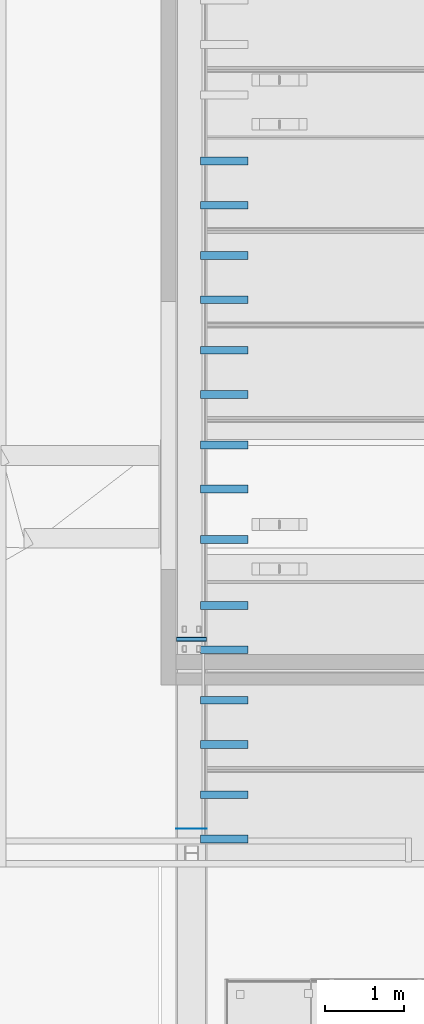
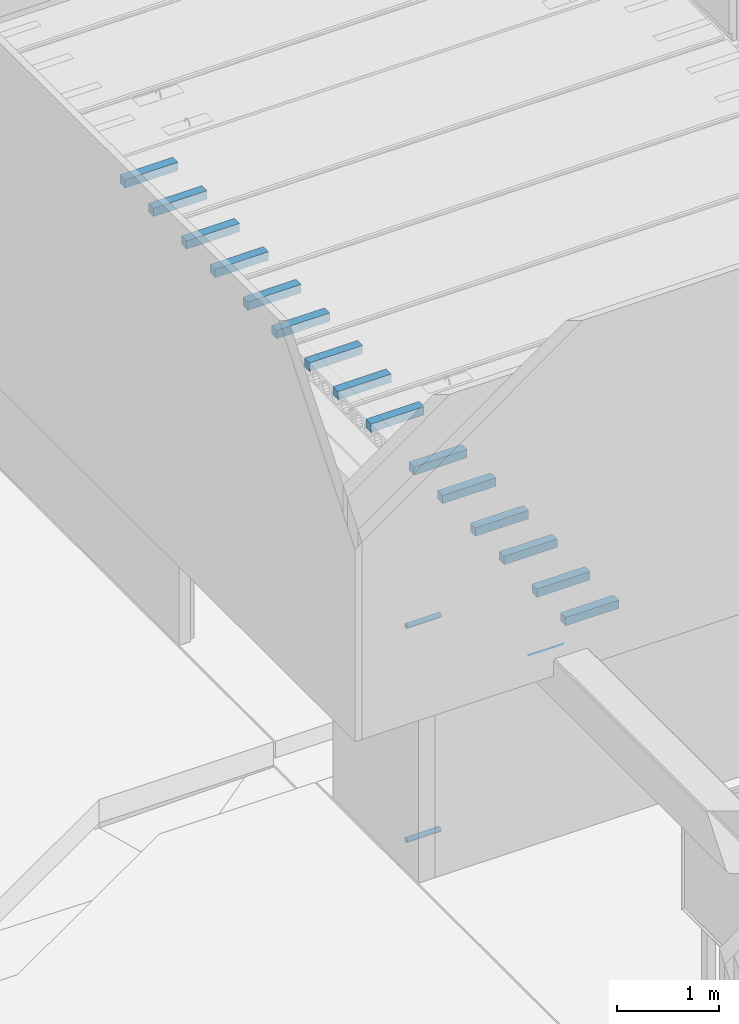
# One storey, part 14 of 230: 19 beams.
"""IFC4X3_ADD2 building model written with IfcOpenShell, lengths in millimetres."""

import ifcopenshell
import ifcopenshell.guid

model = None  # the IFC model being written
_history = None  # IfcOwnerHistory: only IFC2X3 demands one
_inside = {}  # id of a spatial element -> (the spatial element, [elements in it])
_under = {}  # id of a project, library or spatial element -> (it, [spatial elements below it])
_declared = {}  # id of a project -> (the project, [libraries it declares])
_typed = {}  # id of a type object -> (the type object, [elements of that type])
_made_of = {}  # id of a material, layer set ... -> (it, [elements and type objects made of it])


def new_model(schema):
    """Start an empty IFC model of exactly this schema.

    Asked for "IFC4X3", IfcOpenShell would pick the latest addendum, in which some entities
    have other attributes; the version numbers below select the first issue.
    IFC2X3 requires an IfcOwnerHistory on every rooted entity: one is made here for all.
    """
    global model, _history
    if schema == "IFC4X3":
        model = ifcopenshell.file(schema_version=(4, 3, 0, 0))
    else:
        model = ifcopenshell.file(schema=schema)
    _inside.clear()
    _under.clear()
    _declared.clear()
    _typed.clear()
    _made_of.clear()
    _history = None
    if model.schema == "IFC2X3":
        org = make("IfcOrganization", Name="unknown")
        user = make(
            "IfcPersonAndOrganization",
            ThePerson=make("IfcPerson", FamilyName="unknown"),
            TheOrganization=org,
        )
        app = make(
            "IfcApplication",
            ApplicationDeveloper=org,
            Version="unknown",
            ApplicationFullName="unknown",
            ApplicationIdentifier="unknown",
        )
        _history = make(
            "IfcOwnerHistory",
            OwningUser=user,
            OwningApplication=app,
            ChangeAction="ADDED",
            CreationDate=0,
        )
    return model


def make(cls, **values):
    """One entity of the class cls with the attributes given. An attribute that is None is left unset."""
    return model.create_entity(
        cls, **{name: value for name, value in values.items() if value is not None}
    )


def rooted(cls, **values):
    """An entity with a GlobalId (a new one), such as an element, a storey or a relation."""
    return make(cls, GlobalId=ifcopenshell.guid.new(), OwnerHistory=_history, **values)


def si_unit(unit_type, name, prefix=None):
    """IfcSIUnit, for example si_unit("LENGTHUNIT", "METRE", prefix="MILLI")."""
    return make("IfcSIUnit", UnitType=unit_type, Prefix=prefix, Name=name)


def assignment(units):
    """IfcUnitAssignment: the units of a project."""
    return None if units is None else make("IfcUnitAssignment", Units=units)


def point(xyz):
    """IfcCartesianPoint."""
    return None if xyz is None else make("IfcCartesianPoint", Coordinates=xyz)


def direction(xyz):
    """IfcDirection."""
    return None if xyz is None else make("IfcDirection", DirectionRatios=xyz)


def frame(location, z_axis=None, x_axis=None):
    """IfcAxis2Placement3D, a coordinate frame: its origin and axes. An axis left out is left unset."""
    return make(
        "IfcAxis2Placement3D",
        Location=point(location),
        Axis=direction(z_axis),
        RefDirection=direction(x_axis),
    )


def frame_2d(location, x_axis=None):
    """IfcAxis2Placement2D, a coordinate frame in the plane: its origin and x axis."""
    return make(
        "IfcAxis2Placement2D", Location=point(location), RefDirection=direction(x_axis)
    )


def origin_with_axes():
    """The frame at (0, 0, 0) with the z axis (0, 0, 1) and the x axis (1, 0, 0) written out."""
    return frame((0.0, 0.0, 0.0), z_axis=(0.0, 0.0, 1.0), x_axis=(1.0, 0.0, 0.0))


def place(relative_to, where):
    """IfcLocalPlacement: puts the frame where relative to a parent placement (None: the world)."""
    return make(
        "IfcLocalPlacement", PlacementRelTo=relative_to, RelativePlacement=where
    )


def context(
    kind, dimensions, precision=None, world=None, true_north=None, identifier=None
):
    """IfcGeometricRepresentationContext, for example the 3D "Model" context."""
    return make(
        "IfcGeometricRepresentationContext",
        ContextIdentifier=identifier,
        ContextType=kind,
        CoordinateSpaceDimension=dimensions,
        Precision=precision,
        WorldCoordinateSystem=world,
        TrueNorth=true_north,
    )


def subcontext(parent, identifier, kind, view, scale=None):
    """IfcGeometricRepresentationSubContext, for example "Body" below "Model"."""
    return make(
        "IfcGeometricRepresentationSubContext",
        ContextIdentifier=identifier,
        ContextType=kind,
        ParentContext=parent,
        TargetScale=scale,
        TargetView=view,
    )


def project(units=None, contexts=None):
    """IfcProject with its units and contexts."""
    return rooted(
        "IfcProject",
        Name="project",
        RepresentationContexts=contexts,
        UnitsInContext=assignment(units),
    )


def spatial(cls, under=None, at=None, **own):
    """A site, building, storey or space (cls), placed at a placement, below another one or the project."""
    s = rooted(cls, ObjectPlacement=at, **own)
    if under is not None:
        _under.setdefault(under.id(), (under, []))[1].append(s)
    return s


def profile(cls, at=None, kind="AREA", **sizes):
    """A parametric profile (cls). Its sizes go by their IFC names, for example OverallWidth=200.0."""
    return make(cls, ProfileType=kind, Position=at, **sizes)


def rectangle(**sizes):
    """IfcRectangleProfileDef."""
    return profile("IfcRectangleProfileDef", **sizes)


def hollow_circle(**sizes):
    """IfcCircleHollowProfileDef."""
    return profile("IfcCircleHollowProfileDef", **sizes)


def extrude(swept, where, along, depth):
    """IfcExtrudedAreaSolid: the profile swept, set in the frame where, extruded along a direction by depth."""
    return make(
        "IfcExtrudedAreaSolid",
        SweptArea=swept,
        Position=where,
        ExtrudedDirection=direction(along),
        Depth=depth,
    )


def shape(context_of_items, identifier, shape_type, items):
    """IfcShapeRepresentation: the items that make up one representation, for example the "Body"."""
    return make(
        "IfcShapeRepresentation",
        ContextOfItems=context_of_items,
        RepresentationIdentifier=identifier,
        RepresentationType=shape_type,
        Items=items,
    )


def material(Name=None, Category=None):
    """IfcMaterial."""
    return make("IfcMaterial", Name=Name, Category=Category)


def made_of(thing, what):
    """Note that an element or type object is made of a material, layer set ...; save() writes the relation."""
    if what is not None:
        _made_of.setdefault(what.id(), (what, []))[1].append(thing)
    return thing


def element(
    cls,
    number,
    at=None,
    inside=None,
    cuts=None,
    type_object=None,
    material=None,
    context=None,
    identifier="Body",
    shape_type=None,
    held_by="IfcProductDefinitionShape",
    body=None,
    shapes=None,
    **own,
):
    """One element of the class cls, such as IfcWall. Its Tag is "e" and its number.

    at: its placement. inside: the storey or other place that contains it. cuts: it is an
    opening in that element (IfcRelVoidsElement). A single representation is given by context,
    identifier, shape_type and body (its items); several are given by shapes. held_by: the class
    of the entity that holds the representations. save() writes the other relations.
    """
    e = rooted(cls, Tag="e%d" % number, ObjectPlacement=at, **own)
    if body is not None:
        shapes = [shape(context, identifier, shape_type, body)]
    if shapes is not None:
        e.Representation = make(held_by, Representations=shapes)
    if inside is not None:
        _inside.setdefault(inside.id(), (inside, []))[1].append(e)
    if cuts is not None:
        rooted(
            "IfcRelVoidsElement", RelatingBuildingElement=cuts, RelatedOpeningElement=e
        )
    if type_object is not None:
        _typed.setdefault(type_object.id(), (type_object, []))[1].append(e)
    return made_of(e, material)


def aggregate(whole, parts):
    """IfcRelAggregates: a whole, such as a stair, and the parts it consists of."""
    return rooted("IfcRelAggregates", RelatingObject=whole, RelatedObjects=parts)


def save(model, path):
    """Write the relations noted so far, then the file.

    IfcRelAggregates (storeys below a building ...), IfcRelContainedInSpatialStructure (elements
    in a storey), IfcRelDefinesByType, IfcRelAssociatesMaterial and IfcRelDeclares: one each for
    every whole, place, type object, material and project.
    """
    for whole, parts in _under.values():
        aggregate(whole, parts)
    for where, things in _inside.values():
        rooted(
            "IfcRelContainedInSpatialStructure",
            RelatedElements=things,
            RelatingStructure=where,
        )
    for kind, things in _typed.values():
        rooted("IfcRelDefinesByType", RelatedObjects=things, RelatingType=kind)
    for what, things in _made_of.values():
        rooted("IfcRelAssociatesMaterial", RelatedObjects=things, RelatingMaterial=what)
    for by, libraries in _declared.values():
        rooted("IfcRelDeclares", RelatingContext=by, RelatedDefinitions=libraries)
    model.write(path)


model = new_model("IFC4X3_ADD2")

# Units and contexts
model_context = context("Model", 3, precision=1e-05, world=origin_with_axes(), true_north=direction((0.0, 1.0)))
body_context = subcontext(model_context, "Body", "Model", "MODEL_VIEW")
ifc_project = project(units=[si_unit("LENGTHUNIT", "METRE", prefix="MILLI"), si_unit("AREAUNIT", "SQUARE_METRE"), si_unit("VOLUMEUNIT", "CUBIC_METRE"), si_unit("PLANEANGLEUNIT", "RADIAN"), si_unit("TIMEUNIT", "SECOND"), si_unit("MASSUNIT", "GRAM")], contexts=[model_context])

# Site, building, storey
site_placement = place(None, origin_with_axes())
site = spatial("IfcSite", under=ifc_project, at=site_placement, Name="Site", CompositionType="ELEMENT")
building_placement = place(site_placement, origin_with_axes())
building = spatial("IfcBuilding", under=site, at=building_placement, Name="IFC Building Story")
storey_placement = place(building_placement, origin_with_axes())
storey = spatial("IfcBuildingStorey", under=building, at=storey_placement, Name="ETAGE 00 (0)", Elevation=0.0)

# Beams
ifc_material_1 = material(Name="STEEL/Accessory_PVC")
for number, where, z_axis, x_axis, name in (
    (1, (33209.1879999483, 7324.838, 90.0), (1.0, 0.0, 0.0), (0.0, 0.0, -1.0), "PS13"),
    (2, (33209.1880000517, 7324.838, 2640.0), (1.0, 0.0, 0.0), (0.0, 0.0, -1.0), "PS13"),
):
    element("IfcBeam", number, at=place(storey_placement, frame(where, z_axis=z_axis, x_axis=x_axis)), inside=storey, material=ifc_material_1, Name=name, ObjectType="O56*3", context=body_context, shape_type="SweptSolid", body=[
        extrude(hollow_circle(Radius=28.0, WallThickness=3.0, at=frame_2d((0.0, 5.95523630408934e-12), x_axis=(1.0, 0.0))), origin_with_axes(), (0.0, 0.0, 1.0), 384.0),
    ])
ifc_material_2 = material(Name="STEEL/Accessory_invisible")
for number, where, z_axis, x_axis, name in (
    (3, (34116.189, 13390.0009155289, 4150.0), (-1.0, 0.0, 0.0), (0.0, 1.0, 0.0), "ES7"),
    (4, (34116.189, 12830.0009155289, 4150.0), (-1.0, 0.0, 0.0), (0.0, 1.0, 0.0), "ES7"),
    (5, (34116.189, 12190.0009155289, 4150.0), (-1.0, 0.0, 0.0), (0.0, 1.0, 0.0), "ES7"),
    (6, (34116.189, 11630.0009155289, 4150.0), (-1.0, 0.0, 0.0), (0.0, 1.0, 0.0), "ES7"),
    (7, (34116.189, 10990.0009155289, 4150.0), (-1.0, 0.0, 0.0), (0.0, 1.0, 0.0), "ES7"),
    (8, (34116.189, 10430.0009155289, 4150.0), (-1.0, 0.0, 0.0), (0.0, 1.0, 0.0), "ES7"),
    (9, (34116.189, 9790.000915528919, 4150.0), (-1.0, 0.0, 0.0), (0.0, 1.0, 0.0), "ES7"),
    (10, (34116.189, 9230.000915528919, 4150.0), (-1.0, 0.0, 0.0), (0.0, 1.0, 0.0), "ES7"),
    (11, (34116.189, 7750.000915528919, 4150.0), (-1.0, 0.0, 0.0), (0.0, 1.0, 0.0), "ES7"),
    (12, (34116.189, 7190.000915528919, 4150.0), (-1.0, 0.0, 0.0), (0.0, 1.0, 0.0), "ES7"),
    (13, (34116.189, 6550.000915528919, 4150.0), (-1.0, 0.0, 0.0), (0.0, 1.0, 0.0), "ES7"),
    (14, (34116.189, 5990.000915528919, 4150.0), (-1.0, 0.0, 0.0), (0.0, 1.0, 0.0), "ES7"),
    (15, (34116.189, 5350.000915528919, 4150.0), (-1.0, 0.0, 0.0), (0.0, 1.0, 0.0), "ES7"),
    (16, (34116.189, 4790.00091552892, 4150.0), (-1.0, 0.0, 0.0), (0.0, 1.0, 0.0), "ES7"),
    (17, (34116.189, 8590.00089702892, 4150.0), (-1.0, 0.0, 0.0), (0.0, 1.0, 0.0), "ES7"),
):
    element("IfcBeam", number, at=place(storey_placement, frame(where, z_axis=z_axis, x_axis=x_axis)), inside=storey, material=ifc_material_2, Name=name, ObjectType="100*100", context=body_context, shape_type="SweptSolid", body=[
        extrude(rectangle(XDim=100.0, YDim=99.99999999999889, at=frame_2d((0.0, 5.95523630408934e-12), x_axis=(1.0, 0.0))), origin_with_axes(), (0.0, 0.0, 1.0), 600.0),
    ])
beam_1_placement = place(storey_placement, frame((33476.18800000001, 4920.12714846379, 3750.0), z_axis=(-1.0, 0.0, 0.0), x_axis=(0.0, 1.0, 0.0)))
element("IfcBeam", 18, at=beam_1_placement, inside=storey, material=ifc_material_2, Name="ZW3", ObjectType="1*1 3", context=body_context, shape_type="SweptSolid", body=[
    extrude(rectangle(XDim=0.9999999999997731, YDim=0.9999999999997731, at=frame_2d((0.0, 5.95523630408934e-12), x_axis=(1.0, 0.0))), origin_with_axes(), (0.0, 0.0, 1.0), 270.0000000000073),
])
beam_2_placement = place(storey_placement, frame((33596.188, 4920.12714846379, 3750.0), z_axis=(-1.0, 0.0, 0.0), x_axis=(0.0, 1.0, 0.0)))
element("IfcBeam", 19, at=beam_2_placement, inside=storey, material=ifc_material_2, Name="ZW3", ObjectType="1*1 3", context=body_context, shape_type="SweptSolid", body=[
    extrude(rectangle(XDim=0.9999999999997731, YDim=0.9999999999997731, at=frame_2d((0.0, 5.95523630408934e-12), x_axis=(1.0, 0.0))), origin_with_axes(), (0.0, 0.0, 1.0), 120.0),
])

save(model, "model.ifc")
